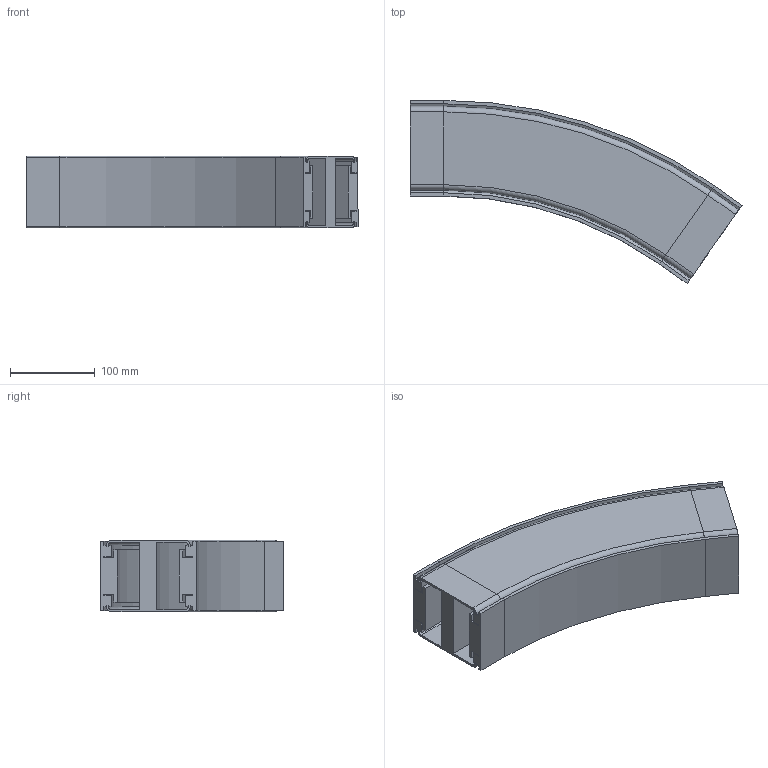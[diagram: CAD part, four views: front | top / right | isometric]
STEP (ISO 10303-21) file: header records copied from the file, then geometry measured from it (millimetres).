
FILE_DESCRIPTION (( 'STEP AP214' ), '1' );
FILE_NAME ('VC.85 Verticale bochtsectie.R500 35.STEP', '2017-02-08T08:13:17', ( '' ), ( '' ), 'SwSTEP 2.0', 'SolidWorks 2016', '' );
FILE_SCHEMA (( 'AUTOMOTIVE_DESIGN' ));
Length unit declared in the file: millimetre
Products named in the file (1): VC.85 Verticale bochtsectie.R500 35
Bounding box: 391.96 x 216.15 x 85 mm (x, y, z)
Volume: 1837407.5 mm3; surface area: 429157.4 mm2
Topology: 1 solids, 1 shells, 206 faces, 476 edges, 272 vertices
Faces by surface type: plane 144, cylinder 46, cone 8, torus 8
Entity records: 5674 total; most frequent: DIRECTION 990, CARTESIAN_POINT 955, ORIENTED_EDGE 952, EDGE_CURVE 476, VECTOR 376, LINE 376, AXIS2_PLACEMENT_3D 307, VERTEX_POINT 272
